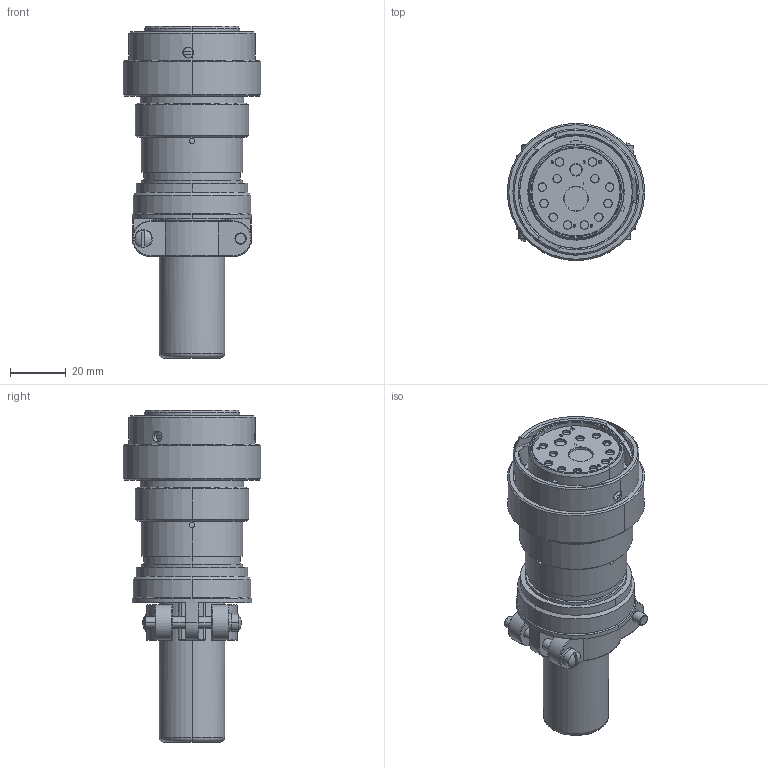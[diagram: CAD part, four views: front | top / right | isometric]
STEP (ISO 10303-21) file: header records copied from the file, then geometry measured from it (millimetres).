
FILE_DESCRIPTION((''),'2;1');
FILE_NAME('C-HD36-24-14SN-059','2013-03-27T',('workeradm'),('Tyco Electronics Ltd.'),'PRO/ENGINEER BY PARAMETRIC TECHNOLOGY CORPORATION, 2011490','PRO/ENGINEER BY PARAMETRIC TECHNOLOGY CORPORATION, 2011490','');
FILE_SCHEMA(('AUTOMOTIVE_DESIGN { 1 0 10303 214 1 1 1 1 }'));
Length unit declared in the file: millimetre
Products named in the file (1): C-HD36-24-14SN-059
Bounding box: 49.33 x 49.33 x 119.25 mm (x, y, z)
Volume: 118228.2 mm3; surface area: 24776.1 mm2
Topology: 1 solids, 1 shells, 689 faces, 1778 edges, 1136 vertices
Faces by surface type: plane 363, cylinder 198, cone 53, bspline 43, torus 22, extrusion 6, sphere 4
Entity records: 31136 total; most frequent: CARTESIAN_POINT 14137, ORIENTED_EDGE 3556, DIRECTION 3295, EDGE_CURVE 1778, VECTOR 1199, LINE 1193, VERTEX_POINT 1136, AXIS2_PLACEMENT_3D 1048
